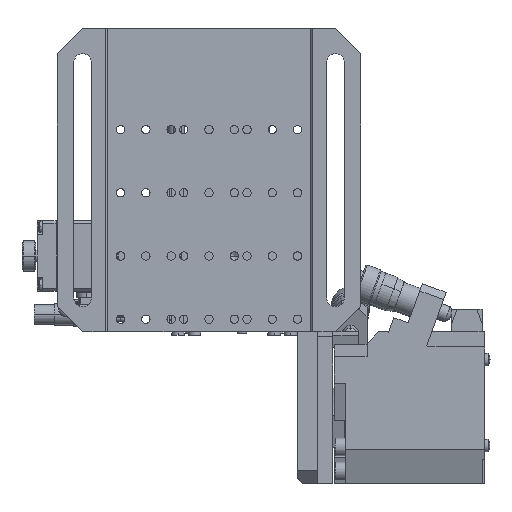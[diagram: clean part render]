
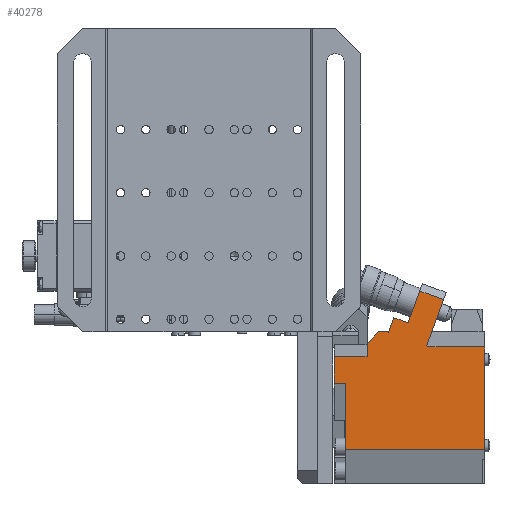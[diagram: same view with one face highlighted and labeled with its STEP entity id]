
A CAD part, front view. The second image highlights one B-rep face of the part: STEP entity #40278.
In plain terms, the highlighted planar face has unit normal (0, -1, 0).
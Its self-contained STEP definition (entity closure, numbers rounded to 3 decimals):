
#357 = ORIENTED_EDGE ( 'NONE', *, *, #54529, .T. ) ;
#1676 = DIRECTION ( 'NONE',  ( -0.94, 0., 0.342 ) ) ;
#2120 = ORIENTED_EDGE ( 'NONE', *, *, #50898, .T. ) ;
#2764 = VERTEX_POINT ( 'NONE', #40673 ) ;
#3123 = DIRECTION ( 'NONE',  ( 0.94, 0., -0.342 ) ) ;
#3426 = VERTEX_POINT ( 'NONE', #11594 ) ;
#3863 = DIRECTION ( 'NONE',  ( 0., 0., -1. ) ) ;
#4856 = EDGE_CURVE ( 'NONE', #7979, #5502, #9848, .T. ) ;
#5502 = VERTEX_POINT ( 'NONE', #47897 ) ;
#5711 = LINE ( 'NONE', #72348, #26646 ) ;
#5831 = VECTOR ( 'NONE', #66148, 1000. ) ;
#7013 = CARTESIAN_POINT ( 'NONE',  ( -54., 5.5, 44.385 ) ) ;
#7901 = VECTOR ( 'NONE', #41825, 1000. ) ;
#7954 = CARTESIAN_POINT ( 'NONE',  ( -68.451, 5.5, 37.574 ) ) ;
#7979 = VERTEX_POINT ( 'NONE', #66332 ) ;
#8033 = LINE ( 'NONE', #9651, #26365 ) ;
#8116 = LINE ( 'NONE', #57873, #65830 ) ;
#8124 = ORIENTED_EDGE ( 'NONE', *, *, #50890, .F. ) ;
#8322 = DIRECTION ( 'NONE',  ( -1., 0., 0. ) ) ;
#9020 = CARTESIAN_POINT ( 'NONE',  ( -13.549, 5.5, 19.5 ) ) ;
#9268 = CARTESIAN_POINT ( 'NONE',  ( -13.549, 5.5, 11. ) ) ;
#9651 = CARTESIAN_POINT ( 'NONE',  ( -75.519, 5.5, 42.275 ) ) ;
#9848 = LINE ( 'NONE', #64428, #49142 ) ;
#10027 = VECTOR ( 'NONE', #13568, 1000. ) ;
#10535 = CARTESIAN_POINT ( 'NONE',  ( -63.518, 5.5, 35.778 ) ) ;
#10718 = LINE ( 'NONE', #68621, #42201 ) ;
#11010 = LINE ( 'NONE', #9020, #25798 ) ;
#11589 = EDGE_CURVE ( 'NONE', #66889, #37831, #67951, .T. ) ;
#11594 = CARTESIAN_POINT ( 'NONE',  ( -50.286, 5.5, 19.5 ) ) ;
#12033 = DIRECTION ( 'NONE',  ( 0.707, 0., -0.707 ) ) ;
#12079 = VERTEX_POINT ( 'NONE', #9268 ) ;
#12304 = DIRECTION ( 'NONE',  ( 0., 0., 1. ) ) ;
#13142 = PLANE ( 'NONE',  #17255 ) ;
#13261 = ORIENTED_EDGE ( 'NONE', *, *, #39560, .T. ) ;
#13413 = VERTEX_POINT ( 'NONE', #10535 ) ;
#13568 = DIRECTION ( 'NONE',  ( 0.94, 0., -0.342 ) ) ;
#13616 = EDGE_CURVE ( 'NONE', #49478, #46126, #31838, .T. ) ;
#14043 = DIRECTION ( 'NONE',  ( 0., 0., -1. ) ) ;
#14406 = CARTESIAN_POINT ( 'NONE',  ( -54., 5.5, 66. ) ) ;
#16018 = EDGE_CURVE ( 'NONE', #2764, #12079, #44669, .T. ) ;
#17027 = VECTOR ( 'NONE', #56914, 1000. ) ;
#17255 = AXIS2_PLACEMENT_3D ( 'NONE', #68876, #52155, #18728 ) ;
#17374 = LINE ( 'NONE', #47468, #48814 ) ;
#18430 = ORIENTED_EDGE ( 'NONE', *, *, #13616, .F. ) ;
#18673 = VECTOR ( 'NONE', #12033, 1000. ) ;
#18728 = DIRECTION ( 'NONE',  ( -1., 0., 0. ) ) ;
#18903 = CARTESIAN_POINT ( 'NONE',  ( -39.644, 5.5, 6.5 ) ) ;
#19401 = ORIENTED_EDGE ( 'NONE', *, *, #56739, .T. ) ;
#20678 = LINE ( 'NONE', #60518, #5831 ) ;
#20981 = VECTOR ( 'NONE', #8322, 1000. ) ;
#21739 = EDGE_CURVE ( 'NONE', #13413, #42287, #5711, .T. ) ;
#23256 = VECTOR ( 'NONE', #51908, 1000. ) ;
#24003 = CARTESIAN_POINT ( 'NONE',  ( -60., 5.5, 27.9 ) ) ;
#24893 = VECTOR ( 'NONE', #3863, 1000. ) ;
#25798 = VECTOR ( 'NONE', #70134, 1000. ) ;
#26329 = CARTESIAN_POINT ( 'NONE',  ( -76.203, 5.5, 40.395 ) ) ;
#26349 = LINE ( 'NONE', #68045, #41296 ) ;
#26365 = VECTOR ( 'NONE', #65380, 1000. ) ;
#26646 = VECTOR ( 'NONE', #38888, 1000. ) ;
#27107 = CARTESIAN_POINT ( 'NONE',  ( -13.549, 5.5, 66. ) ) ;
#27938 = ORIENTED_EDGE ( 'NONE', *, *, #4856, .F. ) ;
#28172 = VERTEX_POINT ( 'NONE', #26329 ) ;
#28360 = VERTEX_POINT ( 'NONE', #62759 ) ;
#29388 = CARTESIAN_POINT ( 'NONE',  ( -65.57, 5.5, 30.14 ) ) ;
#31431 = ORIENTED_EDGE ( 'NONE', *, *, #11589, .T. ) ;
#31838 = LINE ( 'NONE', #45657, #17027 ) ;
#32123 = ORIENTED_EDGE ( 'NONE', *, *, #60241, .T. ) ;
#33532 = LINE ( 'NONE', #67762, #18673 ) ;
#33775 = EDGE_CURVE ( 'NONE', #28172, #13413, #41545, .T. ) ;
#34721 = VERTEX_POINT ( 'NONE', #56889 ) ;
#35860 = LINE ( 'NONE', #69672, #20981 ) ;
#36171 = CARTESIAN_POINT ( 'NONE',  ( -32., 5.5, 66. ) ) ;
#36388 = EDGE_CURVE ( 'NONE', #49478, #2764, #26349, .T. ) ;
#36952 = ORIENTED_EDGE ( 'NONE', *, *, #33775, .T. ) ;
#37054 = DIRECTION ( 'NONE',  ( 1., 0., 0. ) ) ;
#37132 = EDGE_CURVE ( 'NONE', #34721, #37831, #8116, .T. ) ;
#37831 = VERTEX_POINT ( 'NONE', #24003 ) ;
#38888 = DIRECTION ( 'NONE',  ( -0.342, 0., -0.94 ) ) ;
#39435 = ORIENTED_EDGE ( 'NONE', *, *, #36388, .T. ) ;
#39560 = EDGE_CURVE ( 'NONE', #65828, #67312, #17374, .T. ) ;
#40278 = ADVANCED_FACE ( 'NONE', ( #44394 ), #13142, .T. ) ;
#40673 = CARTESIAN_POINT ( 'NONE',  ( -39.644, 5.5, 11. ) ) ;
#41296 = VECTOR ( 'NONE', #12304, 1000. ) ;
#41545 = LINE ( 'NONE', #7954, #10027 ) ;
#41825 = DIRECTION ( 'NONE',  ( -1., 0., 0. ) ) ;
#42201 = VECTOR ( 'NONE', #1676, 1000. ) ;
#42287 = VERTEX_POINT ( 'NONE', #29388 ) ;
#42967 = CARTESIAN_POINT ( 'NONE',  ( -50.286, 5.5, 230.864 ) ) ;
#43466 = EDGE_CURVE ( 'NONE', #60885, #12079, #11010, .T. ) ;
#44394 = FACE_OUTER_BOUND ( 'NONE', #49880, .T. ) ;
#44669 = LINE ( 'NONE', #64901, #57762 ) ;
#45308 = EDGE_CURVE ( 'NONE', #66889, #42287, #10718, .T. ) ;
#45657 = CARTESIAN_POINT ( 'NONE',  ( -33.097, 5.5, 6.5 ) ) ;
#46126 = VERTEX_POINT ( 'NONE', #49106 ) ;
#46224 = ORIENTED_EDGE ( 'NONE', *, *, #21739, .T. ) ;
#46984 = ORIENTED_EDGE ( 'NONE', *, *, #59049, .T. ) ;
#47468 = CARTESIAN_POINT ( 'NONE',  ( -54., 5.5, 66. ) ) ;
#47897 = CARTESIAN_POINT ( 'NONE',  ( -54.459, 5.5, 43.123 ) ) ;
#48814 = VECTOR ( 'NONE', #14043, 1000. ) ;
#49106 = CARTESIAN_POINT ( 'NONE',  ( -50.286, 5.5, 6.5 ) ) ;
#49142 = VECTOR ( 'NONE', #3123, 1000. ) ;
#49478 = VERTEX_POINT ( 'NONE', #18903 ) ;
#49880 = EDGE_LOOP ( 'NONE', ( #64796, #2120, #13261, #19401, #27938, #32123, #36952, #46224, #52298, #31431, #63520, #46984, #8124, #357, #18430, #39435, #56977 ) ) ;
#50670 = LINE ( 'NONE', #36171, #7901 ) ;
#50890 = EDGE_CURVE ( 'NONE', #3426, #28360, #35860, .T. ) ;
#50898 = EDGE_CURVE ( 'NONE', #60885, #65828, #50670, .T. ) ;
#51426 = CARTESIAN_POINT ( 'NONE',  ( -51.879, 5.5, 50.213 ) ) ;
#51908 = DIRECTION ( 'NONE',  ( -0.342, 0., -0.94 ) ) ;
#52155 = DIRECTION ( 'NONE',  ( 0., -1., 0. ) ) ;
#52298 = ORIENTED_EDGE ( 'NONE', *, *, #45308, .F. ) ;
#54529 = EDGE_CURVE ( 'NONE', #3426, #46126, #69567, .T. ) ;
#55013 = CARTESIAN_POINT ( 'NONE',  ( -59.932, 5.5, 28.088 ) ) ;
#56739 = EDGE_CURVE ( 'NONE', #67312, #5502, #20678, .T. ) ;
#56889 = CARTESIAN_POINT ( 'NONE',  ( -60., 5.5, 24. ) ) ;
#56914 = DIRECTION ( 'NONE',  ( -1., 0., 0. ) ) ;
#56977 = ORIENTED_EDGE ( 'NONE', *, *, #16018, .T. ) ;
#57646 = DIRECTION ( 'NONE',  ( 0., 0., 1. ) ) ;
#57762 = VECTOR ( 'NONE', #37054, 1000. ) ;
#57873 = CARTESIAN_POINT ( 'NONE',  ( -60., 5.5, 42.25 ) ) ;
#59049 = EDGE_CURVE ( 'NONE', #34721, #28360, #33532, .T. ) ;
#60241 = EDGE_CURVE ( 'NONE', #7979, #28172, #8033, .T. ) ;
#60518 = CARTESIAN_POINT ( 'NONE',  ( -51.879, 5.5, 50.213 ) ) ;
#60885 = VERTEX_POINT ( 'NONE', #27107 ) ;
#62759 = CARTESIAN_POINT ( 'NONE',  ( -55.5, 5.5, 19.5 ) ) ;
#63520 = ORIENTED_EDGE ( 'NONE', *, *, #37132, .F. ) ;
#64428 = CARTESIAN_POINT ( 'NONE',  ( -65.031, 5.5, 46.971 ) ) ;
#64796 = ORIENTED_EDGE ( 'NONE', *, *, #43466, .F. ) ;
#64901 = CARTESIAN_POINT ( 'NONE',  ( -13.549, 5.5, 11. ) ) ;
#65380 = DIRECTION ( 'NONE',  ( -0.342, 0., -0.94 ) ) ;
#65828 = VERTEX_POINT ( 'NONE', #14406 ) ;
#65830 = VECTOR ( 'NONE', #57646, 1000. ) ;
#66148 = DIRECTION ( 'NONE',  ( -0.342, 0., -0.94 ) ) ;
#66332 = CARTESIAN_POINT ( 'NONE',  ( -72.783, 5.5, 49.792 ) ) ;
#66889 = VERTEX_POINT ( 'NONE', #55013 ) ;
#67312 = VERTEX_POINT ( 'NONE', #7013 ) ;
#67762 = CARTESIAN_POINT ( 'NONE',  ( -54.125, 5.5, 18.125 ) ) ;
#67951 = LINE ( 'NONE', #51426, #23256 ) ;
#68045 = CARTESIAN_POINT ( 'NONE',  ( -39.644, 5.5, 230.864 ) ) ;
#68621 = CARTESIAN_POINT ( 'NONE',  ( -70.503, 5.5, 31.936 ) ) ;
#68876 = CARTESIAN_POINT ( 'NONE',  ( -13.549, 5.5, 230.864 ) ) ;
#69567 = LINE ( 'NONE', #42967, #24893 ) ;
#69672 = CARTESIAN_POINT ( 'NONE',  ( -30., 5.5, 19.5 ) ) ;
#70134 = DIRECTION ( 'NONE',  ( 0., 0., -1. ) ) ;
#72348 = CARTESIAN_POINT ( 'NONE',  ( -62.834, 5.5, 37.658 ) ) ;
